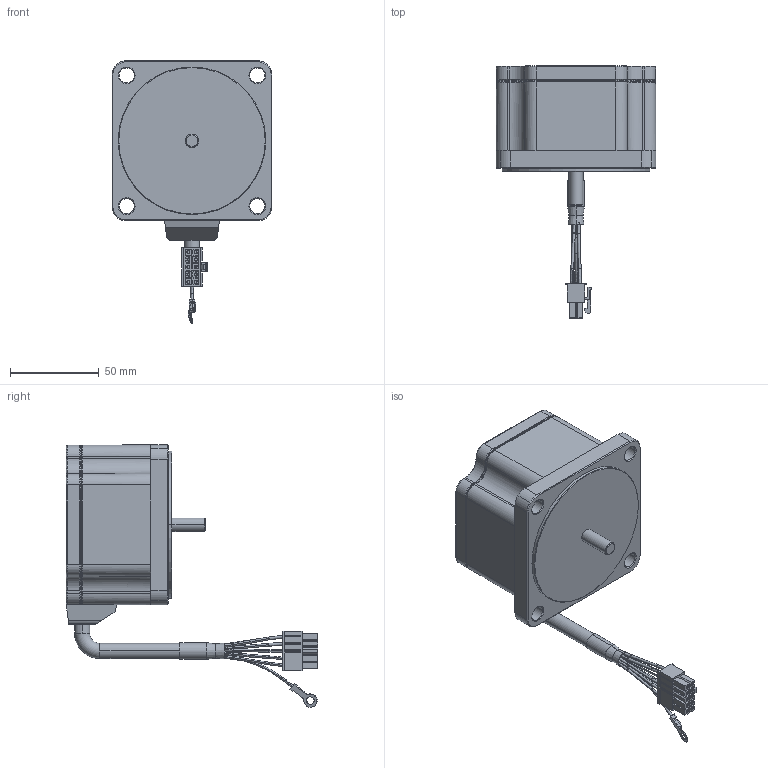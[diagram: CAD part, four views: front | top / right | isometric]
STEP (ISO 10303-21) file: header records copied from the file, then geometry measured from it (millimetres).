
FILE_DESCRIPTION (( 'STEP AP214' ), '1' );
FILE_NAME ('K9BH90N¡à.stp', '2023-07-27T00:58:17', ( '' ), ( '' ), 'SwSTEP 2.0', 'SolidWorks 2022', '' );
FILE_SCHEMA (( 'AUTOMOTIVE_DESIGN' ));
Length unit declared in the file: millimetre
Products named in the file (1): K9BH90N﹤
Bounding box: 90 x 141.6 x 147.62 mm (x, y, z)
Volume: 436302.5 mm3; surface area: 59153 mm2
Topology: 3 solids, 4 shells, 864 faces, 2338 edges, 1483 vertices
Faces by surface type: plane 524, cylinder 136, bspline 134, cone 42, torus 28
Entity records: 31794 total; most frequent: CARTESIAN_POINT 11044, ORIENTED_EDGE 4688, DIRECTION 3825, EDGE_CURVE 2344, VECTOR 1571, LINE 1571, VERTEX_POINT 1483, AXIS2_PLACEMENT_3D 1127
